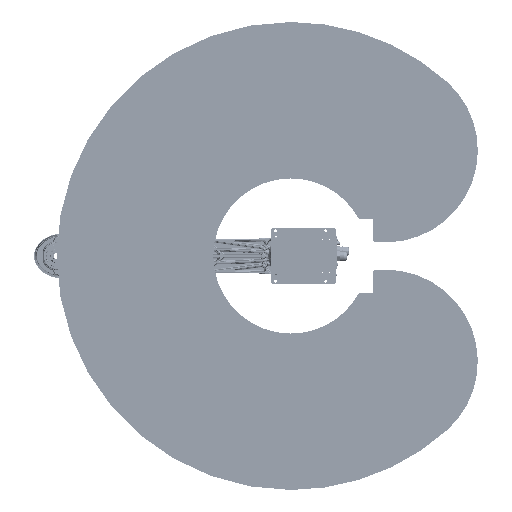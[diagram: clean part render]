
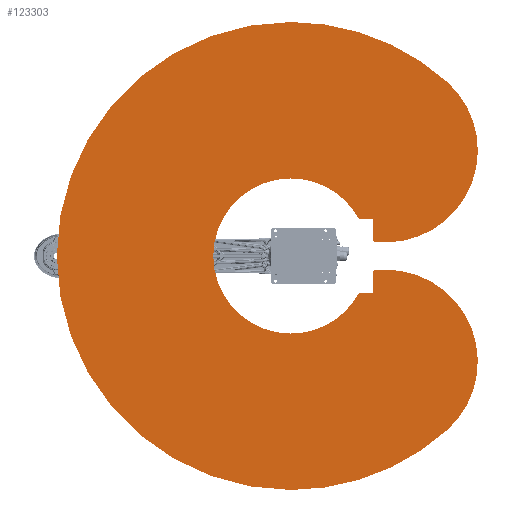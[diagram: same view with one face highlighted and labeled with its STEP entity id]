
A CAD part, front view. The second image highlights one B-rep face of the part: STEP entity #123303.
In plain terms, the highlighted planar face has unit normal (0, -1, 0) as drawn and (0, 0, -1) by its records, which use the part's own axes.
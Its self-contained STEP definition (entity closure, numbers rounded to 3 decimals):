
#5472 = DIRECTION ( 'NONE',  ( 0., 0., -1. ) ) ;
#5549 = AXIS2_PLACEMENT_3D ( 'NONE', #36695, #214366, #211307 ) ;
#5769 = CARTESIAN_POINT ( 'NONE',  ( -110., -245., 0. ) ) ;
#8299 = AXIS2_PLACEMENT_3D ( 'NONE', #102513, #117420, #224167 ) ;
#9232 = DIRECTION ( 'NONE',  ( 0., 0., -1. ) ) ;
#9836 = EDGE_CURVE ( 'NONE', #62242, #68195, #125739, .T. ) ;
#10407 = CARTESIAN_POINT ( 'NONE',  ( 0., -245., 0. ) ) ;
#11373 = DIRECTION ( 'NONE',  ( 0., 0., 1. ) ) ;
#16804 = CIRCLE ( 'NONE', #47052, 275. ) ;
#19448 = EDGE_CURVE ( 'NONE', #228786, #210414, #33960, .T. ) ;
#22725 = ORIENTED_EDGE ( 'NONE', *, *, #73116, .F. ) ;
#23161 = VERTEX_POINT ( 'NONE', #114421 ) ;
#24030 = DIRECTION ( 'NONE',  ( -1., 0., 0. ) ) ;
#25168 = VECTOR ( 'NONE', #215660, 1000. ) ;
#27330 = ORIENTED_EDGE ( 'NONE', *, *, #71078, .F. ) ;
#28916 = VERTEX_POINT ( 'NONE', #92034 ) ;
#33960 = CIRCLE ( 'NONE', #175707, 275. ) ;
#36695 = CARTESIAN_POINT ( 'NONE',  ( 0., 0., 0. ) ) ;
#38020 = VERTEX_POINT ( 'NONE', #173749 ) ;
#40966 = DIRECTION ( 'NONE',  ( -1., 0., 0. ) ) ;
#41184 = DIRECTION ( 'NONE',  ( 0., 0., 1. ) ) ;
#42334 = CARTESIAN_POINT ( 'NONE',  ( 0., 0., 0. ) ) ;
#42395 = AXIS2_PLACEMENT_3D ( 'NONE', #171436, #135622, #81732 ) ;
#43849 = DIRECTION ( 'NONE',  ( -1., 0., 0. ) ) ;
#43958 = ORIENTED_EDGE ( 'NONE', *, *, #217037, .F. ) ;
#46375 = VERTEX_POINT ( 'NONE', #58689 ) ;
#46906 = EDGE_CURVE ( 'NONE', #199467, #28916, #158273, .T. ) ;
#47052 = AXIS2_PLACEMENT_3D ( 'NONE', #97802, #11373, #40966 ) ;
#47947 = PLANE ( 'NONE',  #8299 ) ;
#57812 = VECTOR ( 'NONE', #136381, 1000. ) ;
#58225 = ORIENTED_EDGE ( 'NONE', *, *, #19448, .F. ) ;
#58689 = CARTESIAN_POINT ( 'NONE',  ( -231.984, 0., 0. ) ) ;
#62242 = VERTEX_POINT ( 'NONE', #191310 ) ;
#63223 = DIRECTION ( 'NONE',  ( -1., 0., 0. ) ) ;
#63448 = VECTOR ( 'NONE', #174471, 1000. ) ;
#63527 = CARTESIAN_POINT ( 'NONE',  ( 0., 0., 0. ) ) ;
#68195 = VERTEX_POINT ( 'NONE', #71025 ) ;
#71025 = CARTESIAN_POINT ( 'NONE',  ( 110., -204.246, 0. ) ) ;
#71078 = EDGE_CURVE ( 'NONE', #210414, #199467, #160907, .T. ) ;
#73116 = EDGE_CURVE ( 'NONE', #46375, #62242, #202368, .T. ) ;
#80224 = ORIENTED_EDGE ( 'NONE', *, *, #177116, .F. ) ;
#81732 = DIRECTION ( 'NONE',  ( -1., 0., 0. ) ) ;
#85890 = DIRECTION ( 'NONE',  ( 0., 0., -1. ) ) ;
#87135 = CARTESIAN_POINT ( 'NONE',  ( 520.201, -468.391, 0. ) ) ;
#90062 = CARTESIAN_POINT ( 'NONE',  ( 110., 70.31, 0. ) ) ;
#92034 = CARTESIAN_POINT ( 'NONE',  ( -110., -204.246, 0. ) ) ;
#93598 = VERTEX_POINT ( 'NONE', #87135 ) ;
#94111 = CARTESIAN_POINT ( 'NONE',  ( -315.837, -284.381, 0. ) ) ;
#95839 = CARTESIAN_POINT ( 'NONE',  ( 0., -245., 0. ) ) ;
#97802 = CARTESIAN_POINT ( 'NONE',  ( 315.837, -284.381, 0. ) ) ;
#99230 = LINE ( 'NONE', #10407, #185615 ) ;
#99820 = CIRCLE ( 'NONE', #42395, 231.984 ) ;
#101678 = CIRCLE ( 'NONE', #171750, 700. ) ;
#102513 = CARTESIAN_POINT ( 'NONE',  ( -708.4, -566.937, 0. ) ) ;
#104277 = EDGE_CURVE ( 'NONE', #68195, #160925, #119974, .T. ) ;
#106300 = EDGE_CURVE ( 'NONE', #28916, #46375, #99820, .T. ) ;
#114421 = CARTESIAN_POINT ( 'NONE',  ( -700., 0., 0. ) ) ;
#117420 = DIRECTION ( 'NONE',  ( 0., 0., 1. ) ) ;
#118924 = CARTESIAN_POINT ( 'NONE',  ( 40.837, -284.381, 0. ) ) ;
#119974 = LINE ( 'NONE', #90062, #25168 ) ;
#123303 = ADVANCED_FACE ( 'NONE', ( #127299 ), #47947, .F. ) ;
#124063 = CARTESIAN_POINT ( 'NONE',  ( 0., 0., 0. ) ) ;
#125202 = ORIENTED_EDGE ( 'NONE', *, *, #46906, .F. ) ;
#125739 = CIRCLE ( 'NONE', #184991, 231.984 ) ;
#127229 = CARTESIAN_POINT ( 'NONE',  ( -520.201, -468.391, 0. ) ) ;
#127299 = FACE_OUTER_BOUND ( 'NONE', #209250, .T. ) ;
#130107 = CARTESIAN_POINT ( 'NONE',  ( 0., 0., 0. ) ) ;
#132535 = ORIENTED_EDGE ( 'NONE', *, *, #104277, .F. ) ;
#135152 = VERTEX_POINT ( 'NONE', #118924 ) ;
#135615 = ORIENTED_EDGE ( 'NONE', *, *, #106300, .F. ) ;
#135622 = DIRECTION ( 'NONE',  ( 0., 0., -1. ) ) ;
#136381 = DIRECTION ( 'NONE',  ( -1., 0., 0. ) ) ;
#138844 = CARTESIAN_POINT ( 'NONE',  ( 700., 0., 0. ) ) ;
#139937 = CARTESIAN_POINT ( 'NONE',  ( 110., -245., 0. ) ) ;
#143109 = ORIENTED_EDGE ( 'NONE', *, *, #177104, .T. ) ;
#144197 = EDGE_CURVE ( 'NONE', #135152, #93598, #16804, .T. ) ;
#149517 = ORIENTED_EDGE ( 'NONE', *, *, #144197, .F. ) ;
#153956 = CARTESIAN_POINT ( 'NONE',  ( 315.837, -284.381, 0. ) ) ;
#154936 = CARTESIAN_POINT ( 'NONE',  ( -110., 70.31, 0. ) ) ;
#157546 = DIRECTION ( 'NONE',  ( -1., 0., 0. ) ) ;
#158273 = LINE ( 'NONE', #154936, #63448 ) ;
#159242 = ORIENTED_EDGE ( 'NONE', *, *, #180503, .T. ) ;
#160751 = CARTESIAN_POINT ( 'NONE',  ( -43.671, -245., 0. ) ) ;
#160907 = LINE ( 'NONE', #95839, #57812 ) ;
#160925 = VERTEX_POINT ( 'NONE', #139937 ) ;
#162180 = AXIS2_PLACEMENT_3D ( 'NONE', #42334, #184933, #43849 ) ;
#169005 = ORIENTED_EDGE ( 'NONE', *, *, #173269, .T. ) ;
#171436 = CARTESIAN_POINT ( 'NONE',  ( 0., 0., 0. ) ) ;
#171750 = AXIS2_PLACEMENT_3D ( 'NONE', #63527, #9232, #222686 ) ;
#173269 = EDGE_CURVE ( 'NONE', #228786, #23161, #205340, .T. ) ;
#173749 = CARTESIAN_POINT ( 'NONE',  ( 43.671, -245., 0. ) ) ;
#174471 = DIRECTION ( 'NONE',  ( 0., 1., 0. ) ) ;
#175707 = AXIS2_PLACEMENT_3D ( 'NONE', #94111, #41184, #24030 ) ;
#177104 = EDGE_CURVE ( 'NONE', #206787, #93598, #101678, .T. ) ;
#177116 = EDGE_CURVE ( 'NONE', #38020, #135152, #221619, .T. ) ;
#180503 = EDGE_CURVE ( 'NONE', #23161, #206787, #185756, .T. ) ;
#184933 = DIRECTION ( 'NONE',  ( 0., 0., -1. ) ) ;
#184991 = AXIS2_PLACEMENT_3D ( 'NONE', #124063, #85890, #157546 ) ;
#185615 = VECTOR ( 'NONE', #63223, 1000. ) ;
#185756 = CIRCLE ( 'NONE', #202132, 700. ) ;
#188148 = AXIS2_PLACEMENT_3D ( 'NONE', #153956, #188336, #224975 ) ;
#188336 = DIRECTION ( 'NONE',  ( 0., 0., 1. ) ) ;
#191310 = CARTESIAN_POINT ( 'NONE',  ( 231.984, 0., 0. ) ) ;
#199467 = VERTEX_POINT ( 'NONE', #5769 ) ;
#202132 = AXIS2_PLACEMENT_3D ( 'NONE', #130107, #5472, #221234 ) ;
#202368 = CIRCLE ( 'NONE', #5549, 231.984 ) ;
#205340 = CIRCLE ( 'NONE', #162180, 700. ) ;
#206787 = VERTEX_POINT ( 'NONE', #138844 ) ;
#209250 = EDGE_LOOP ( 'NONE', ( #58225, #169005, #159242, #143109, #149517, #80224, #43958, #132535, #221956, #22725, #135615, #125202, #27330 ) ) ;
#210414 = VERTEX_POINT ( 'NONE', #160751 ) ;
#211307 = DIRECTION ( 'NONE',  ( -1., 0., 0. ) ) ;
#214366 = DIRECTION ( 'NONE',  ( 0., 0., -1. ) ) ;
#215660 = DIRECTION ( 'NONE',  ( 0., -1., 0. ) ) ;
#217037 = EDGE_CURVE ( 'NONE', #160925, #38020, #99230, .T. ) ;
#221234 = DIRECTION ( 'NONE',  ( -1., 0., 0. ) ) ;
#221619 = CIRCLE ( 'NONE', #188148, 275. ) ;
#221956 = ORIENTED_EDGE ( 'NONE', *, *, #9836, .F. ) ;
#222686 = DIRECTION ( 'NONE',  ( -1., 0., 0. ) ) ;
#224167 = DIRECTION ( 'NONE',  ( 1., 0., 0. ) ) ;
#224975 = DIRECTION ( 'NONE',  ( -1., 0., 0. ) ) ;
#228786 = VERTEX_POINT ( 'NONE', #127229 ) ;
